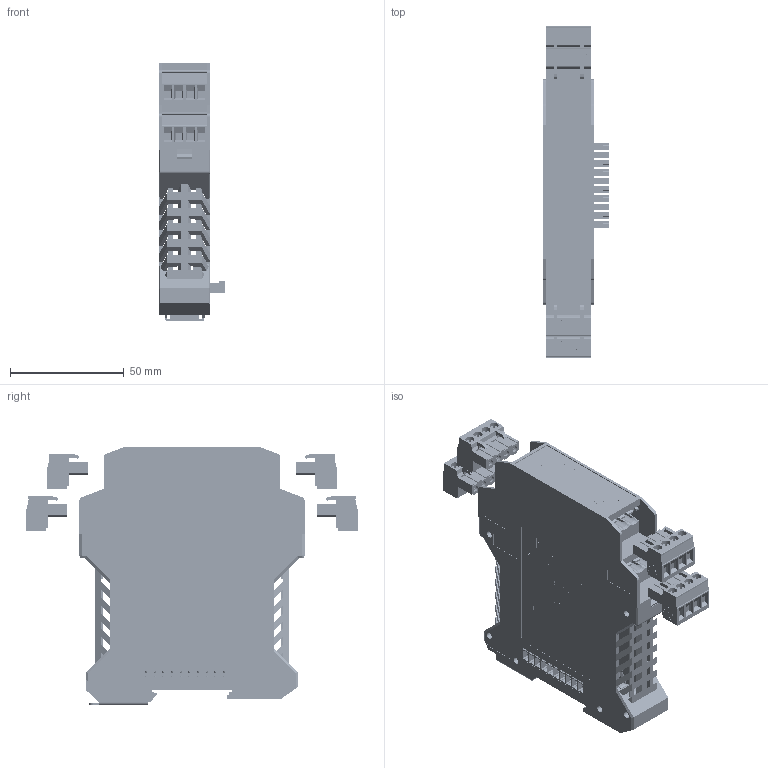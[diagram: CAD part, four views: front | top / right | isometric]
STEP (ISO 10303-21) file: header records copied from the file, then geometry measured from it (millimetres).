
FILE_DESCRIPTION(('STEP AP203'), '1');
FILE_NAME('鍛鍧 BAD-8_', '', ('UNSPECIFIED'), ('UNSPECIFIED'), 'ASCON STEP Converter 1.3', 'ASCON Math Kernel', '');
FILE_SCHEMA(('CONFIG_CONTROL_DESIGN'));
Length unit declared in the file: millimetre
Products named in the file (16): ME_22.5_UTR_H_BUS_10_H.Select__00496319; ME_Verriegelungshaken_H.Select__00446697; ME_22.5_UTL_H_BUS_10_H.Select__00496310; ME_BUS_22.5_MC_10-ST_H.Select__00493208; ME_BUS_FE-CONTACT_H.Select__00437355; Fussriegel_17.5_L30_H.Select__00315466; ME_22_5_OT-MSTBO_H.Select__00273265; MSTBO_2_5_4-G1L_H.Select__00364411; MSTBO_2_5_4-G1R_H.Select__00364505; MSTBT_2.5-4-ST
Assembly tree (21 placements, depth 5):
  (unnamed)
    (unnamed)
      (unnamed)
        (unnamed)
          ME_22.5_UTR_H_BUS_10_H.Select__00496319
          ME_Verriegelungshaken_H.Select__00446697  x2
          ME_22.5_UTL_H_BUS_10_H.Select__00496310
          ME_BUS_22.5_MC_10-ST_H.Select__00493208
          ME_BUS_FE-CONTACT_H.Select__00437355
          Fussriegel_17.5_L30_H.Select__00315466
      (unnamed)
        ME_22_5_OT-MSTBO_H.Select__00273265
        MSTBO_2_5_4-G1L_H.Select__00364411  x2
        MSTBO_2_5_4-G1R_H.Select__00364505  x2
    MSTBT_2.5-4-ST  x4
      MSTBT_2.5-4-ST
Bounding box: 29.1 x 145.9 x 113.6 mm (x, y, z)
Volume: 76886 mm3; surface area: 99697.6 mm2
Topology: 19 solids, 21 shells, 15814 faces, 44234 edges, 29331 vertices
Faces by surface type: plane 9777, cylinder 5655, extrusion 352, cone 30
Full cylindrical faces by diameter (mm): 0.813 x3, 0.853 x3, 1.353 x16, 1.4 x32, 1.6 x20, 2 x6, 2.1 x3, 2.8 x32, 3 x12, 3.783 x16, 4 x16
Entity records: 533339 total; most frequent: CARTESIAN_POINT 79061, ORIENTED_EDGE 73644, DIRECTION 72807, EDGE_CURVE 36822, VECTOR 25899, LINE 25658, VERTEX_POINT 24511, AXIS2_PLACEMENT_3D 23454
